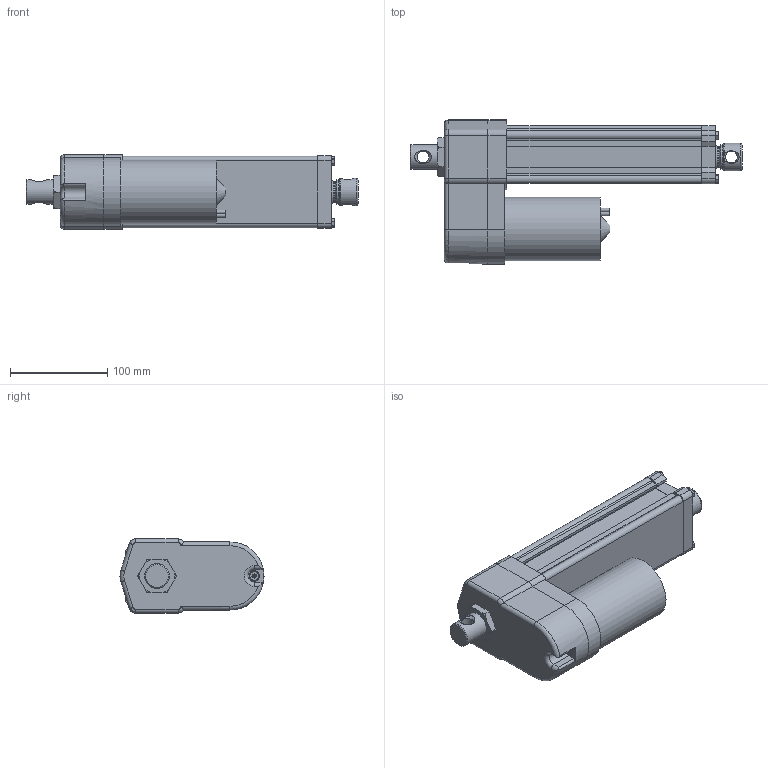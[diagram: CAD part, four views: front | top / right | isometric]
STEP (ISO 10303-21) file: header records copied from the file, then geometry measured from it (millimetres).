
FILE_DESCRIPTION( ( 'STEP AP203' ), '1' );
FILE_NAME( 'p:/temp/worker_517/temp/exporttempdir_4360_911_wG7ZF/format_0/DA12-05A65M15M0N-AMM.stp', '2020-04-12T13:15:58', ( 'License CC BY-ND 4.0' ), ( 'CADENAS' ), ' ', 'PARTsolutions', ' ' );
FILE_SCHEMA( ( 'CONFIG_CONTROL_DESIGN' ) );
Length unit declared in the file: millimetre
Products named in the file (8): DA12-05A65M15M0N-AMM; _ELECTRAK-LA14-DA12-05A65MM0N-15M-EU-REAR; _Electrak-10-EU-RA-D602700; _D602768eu; _ELECTRAK-LA14-DA12--MOTOR; _DA12-05A65M15M0NAMMtube; _ELECTRAK-LA14-DA12--15-PLATE; _ELECTRAK-LA14-DA12--1505A65MNM-ROD
Assembly tree (7 placements, depth 2):
  DA12-05A65M15M0N-AMM
    _ELECTRAK-LA14-DA12-05A65MM0N-15M-EU-REAR
    _Electrak-10-EU-RA-D602700
    _D602768eu
    _ELECTRAK-LA14-DA12--MOTOR
    _DA12-05A65M15M0NAMMtube
    _ELECTRAK-LA14-DA12--15-PLATE
    _ELECTRAK-LA14-DA12--1505A65MNM-ROD
Bounding box: 341.05 x 148 x 76.2 mm (x, y, z)
Volume: 1356794 mm3; surface area: 267918.3 mm2
Topology: 7 solids, 8 shells, 378 faces, 942 edges, 610 vertices
Faces by surface type: plane 183, cylinder 131, cone 46, torus 14, bspline 4
Full cylindrical faces by diameter (mm): 4 x2, 4.126 x1, 4.8 x6, 5 x5, 5.6 x4, 7.878 x4, 9.398 x1, 12.2 x2, 16 x1, 21.8 x1, 25.2 x1, 25.4 x1, 26.24 x1, 28.5 x1, 28.6 x2, 47.625 x1, 65.3 x1
Entity records: 11834 total; most frequent: CARTESIAN_POINT 2729, DIRECTION 1869, ORIENTED_EDGE 1744, EDGE_CURVE 872, AXIS2_PLACEMENT_3D 702, VERTEX_POINT 602, EDGE_LOOP 485, LINE 465
